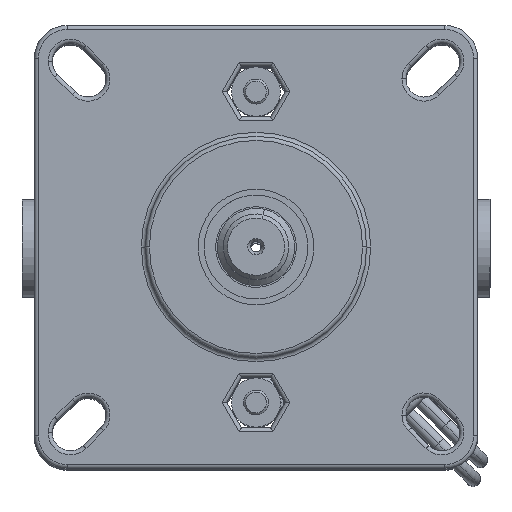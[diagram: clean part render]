
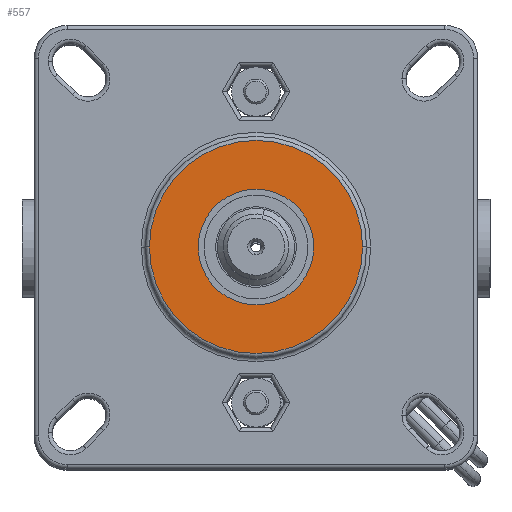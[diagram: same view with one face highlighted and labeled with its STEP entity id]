
A CAD part, top view. The second image highlights one B-rep face of the part: STEP entity #557.
In plain terms, the highlighted planar face has unit normal (0, 0, 1).
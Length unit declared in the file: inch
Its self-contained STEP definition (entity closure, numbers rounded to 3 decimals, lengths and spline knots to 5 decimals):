
#543 = ORIENTED_EDGE ( 'NONE', *, *, #560, .T. ) ;
#548 = EDGE_LOOP ( 'NONE', ( #543, #550 ) ) ;
#550 = ORIENTED_EDGE ( 'NONE', *, *, #5324, .T. ) ;
#552 = ORIENTED_EDGE ( 'NONE', *, *, #5469, .T. ) ;
#554 = EDGE_CURVE ( 'NONE', #5522, #5527, #2115, .T. ) ;
#555 = ORIENTED_EDGE ( 'NONE', *, *, #554, .T. ) ;
#556 = EDGE_LOOP ( 'NONE', ( #555, #552 ) ) ;
#557 = ADVANCED_FACE ( 'NONE', ( #2110, #2182 ), #2180, .F. ) ;
#560 = EDGE_CURVE ( 'NONE', #4868, #4221, #2169, .T. ) ;
#2110 = FACE_OUTER_BOUND ( 'NONE', #556, .T. ) ;
#2111 = DIRECTION ( 'NONE',  ( -1., 0., 0. ) ) ;
#2112 = DIRECTION ( 'NONE',  ( 0., 0., 1. ) ) ;
#2113 = CARTESIAN_POINT ( 'NONE',  ( 0., 0., 7.374 ) ) ;
#2114 = AXIS2_PLACEMENT_3D ( 'NONE', #2113, #2112, #2111 ) ;
#2115 = CIRCLE ( 'NONE', #2114, 0.8115 ) ;
#2165 = DIRECTION ( 'NONE',  ( -1., 0., 0. ) ) ;
#2166 = DIRECTION ( 'NONE',  ( 0., 0., -1. ) ) ;
#2167 = CARTESIAN_POINT ( 'NONE',  ( 0., 0., 7.374 ) ) ;
#2168 = AXIS2_PLACEMENT_3D ( 'NONE', #2167, #2166, #2165 ) ;
#2169 = CIRCLE ( 'NONE', #2168, 0.44 ) ;
#2176 = DIRECTION ( 'NONE',  ( -1., 0., 0. ) ) ;
#2177 = DIRECTION ( 'NONE',  ( 0., 0., -1. ) ) ;
#2178 = CARTESIAN_POINT ( 'NONE',  ( 0., 0., 7.374 ) ) ;
#2179 = AXIS2_PLACEMENT_3D ( 'NONE', #2178, #2177, #2176 ) ;
#2180 = PLANE ( 'NONE',  #2179 ) ;
#2182 = FACE_BOUND ( 'NONE', #548, .T. ) ;
#3361 = CARTESIAN_POINT ( 'NONE',  ( -0.44, 0., 7.374 ) ) ;
#3380 = CARTESIAN_POINT ( 'NONE',  ( 0.44, 0., 7.374 ) ) ;
#3494 = DIRECTION ( 'NONE',  ( -1., 0., 0. ) ) ;
#3495 = DIRECTION ( 'NONE',  ( 0., 0., -1. ) ) ;
#3496 = AXIS2_PLACEMENT_3D ( 'NONE', #3502, #3495, #3494 ) ;
#3497 = CIRCLE ( 'NONE', #3496, 0.44 ) ;
#3502 = CARTESIAN_POINT ( 'NONE',  ( 0., 0., 7.374 ) ) ;
#3535 = CARTESIAN_POINT ( 'NONE',  ( 0.8115, 0., 7.374 ) ) ;
#3536 = CARTESIAN_POINT ( 'NONE',  ( -0.8115, 0., 7.374 ) ) ;
#3537 = DIRECTION ( 'NONE',  ( -1., 0., 0. ) ) ;
#3538 = DIRECTION ( 'NONE',  ( 0., 0., 1. ) ) ;
#3539 = CARTESIAN_POINT ( 'NONE',  ( 0., 0., 7.374 ) ) ;
#3540 = AXIS2_PLACEMENT_3D ( 'NONE', #3539, #3538, #3537 ) ;
#3541 = CIRCLE ( 'NONE', #3540, 0.8115 ) ;
#4221 = VERTEX_POINT ( 'NONE', #3380 ) ;
#4868 = VERTEX_POINT ( 'NONE', #3361 ) ;
#5324 = EDGE_CURVE ( 'NONE', #4221, #4868, #3497, .T. ) ;
#5469 = EDGE_CURVE ( 'NONE', #5527, #5522, #3541, .T. ) ;
#5522 = VERTEX_POINT ( 'NONE', #3536 ) ;
#5527 = VERTEX_POINT ( 'NONE', #3535 ) ;
